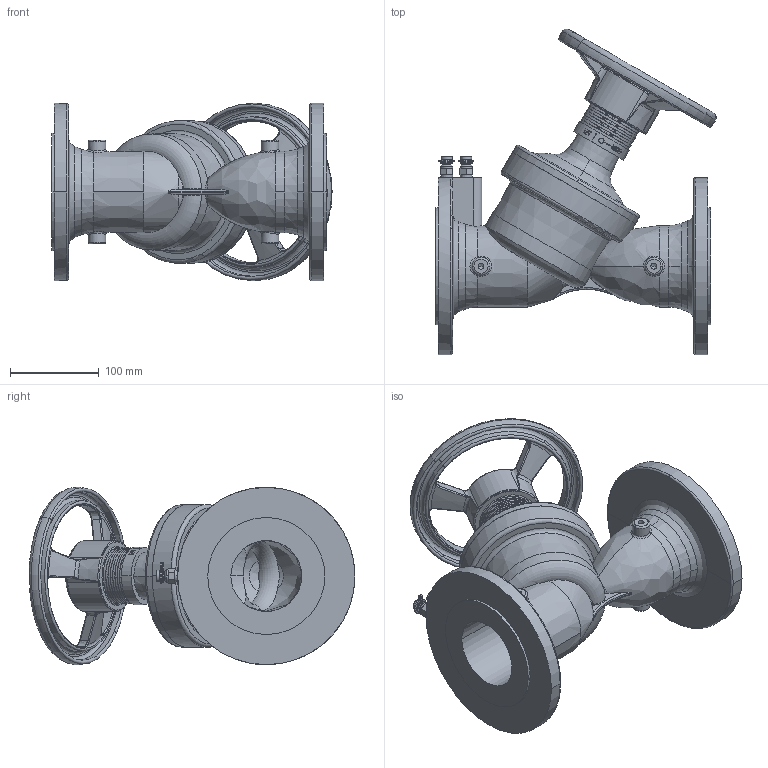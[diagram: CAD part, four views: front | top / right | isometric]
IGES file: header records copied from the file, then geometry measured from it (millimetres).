
Global section: file name: No Iges File Name specified; native system: AutoDesk Inventor R12.0; preprocessor: AutoDesk Inventor Iges Exporter R12.0; date: 20110225.113658; units: millimetre
Bounding box: 316.32 x 367.61 x 200.17 mm (x, y, z)
Volume: 2635874.5 mm3; surface area: 507489.9 mm2
Topology: 1 solids, 6 shells, 1028 faces, 2644 edges, 1688 vertices
Faces by surface type: plane 347, bspline 313, revolution 134, cylinder 111, cone 74, torus 49
